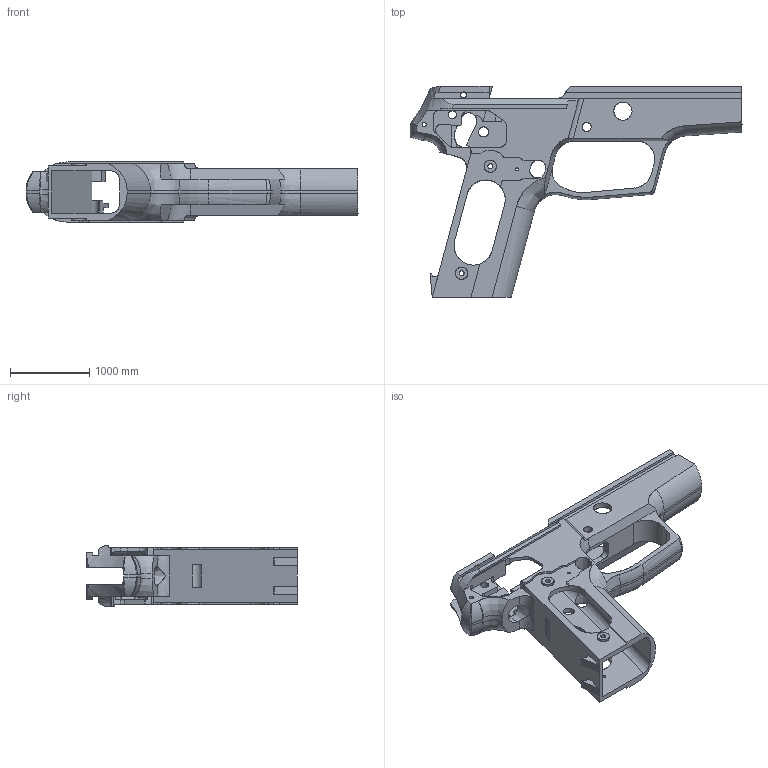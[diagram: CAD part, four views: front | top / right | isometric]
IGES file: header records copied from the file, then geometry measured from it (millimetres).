
Start section: SolidWorks IGES FILE using analytic representation for surfaces
Global section: file name: C:\AAA_Downloads\Gun Drawings\Guns\SIG\SIG P228\SIGP228.IGS; native system: SolidWorks 2004 by SolidWorks Corporation; preprocessor: Version 5.3; author: Me; date: 040617.213750; units: inch
Bounding box: 4181.28 x 2656.32 x 758.06 mm (x, y, z)
Surface area: 26166437.9 mm2 (no closed solid volume)
Topology: 0 solids, 0 shells, 335 faces, 6991 edges, 6991 vertices
Faces by surface type: bspline 192, revolution 143
